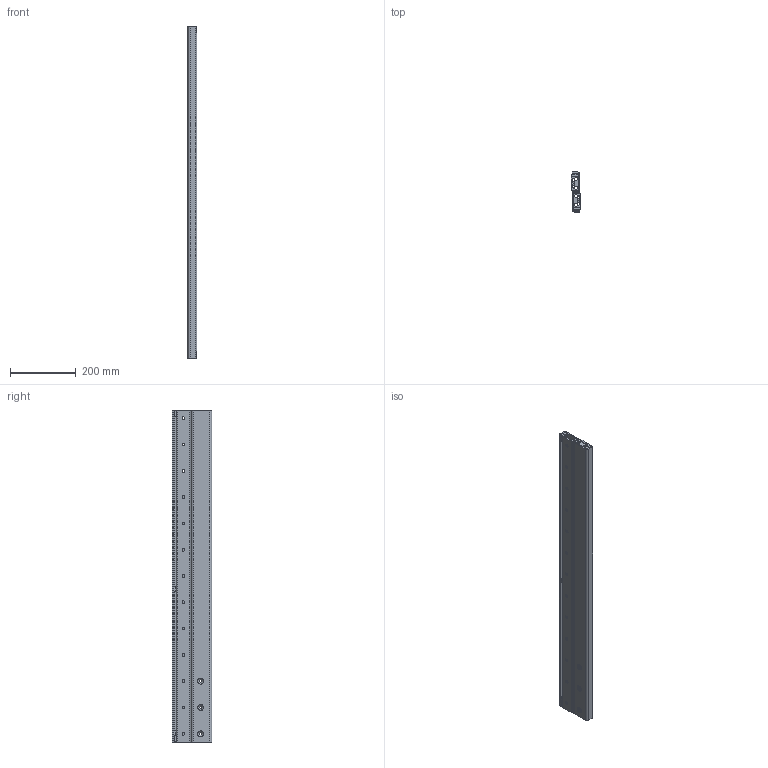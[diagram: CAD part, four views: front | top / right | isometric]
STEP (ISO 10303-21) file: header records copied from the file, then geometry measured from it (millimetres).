
FILE_DESCRIPTION(('STEP AP214'),'1');
FILE_NAME('rail_dss43-1010_00.stp','2017-04-17T03:59:26',('TraceParts'),('TraceParts S.A.'),'Spatial InterOp 3D',' ',' ');
FILE_SCHEMA(('automotive_design'));
Length unit declared in the file: millimetre
Products named in the file (3): rail_dss43-1010_00_1; rail_dss43-1010_00_2; rail_dss43-1010_00_3
Bounding box: 28 x 120 x 1010 mm (x, y, z)
Volume: 1804855.2 mm3; surface area: 724432.5 mm2
Topology: 3 solids, 3 shells, 306 faces, 818 edges, 528 vertices
Faces by surface type: plane 138, cylinder 116, cone 52
Entity records: 9739 total; most frequent: DIRECTION 1736, CARTESIAN_POINT 1655, ORIENTED_EDGE 1636, EDGE_CURVE 818, AXIS2_PLACEMENT_3D 609, VERTEX_POINT 528, LINE 518, VECTOR 518
